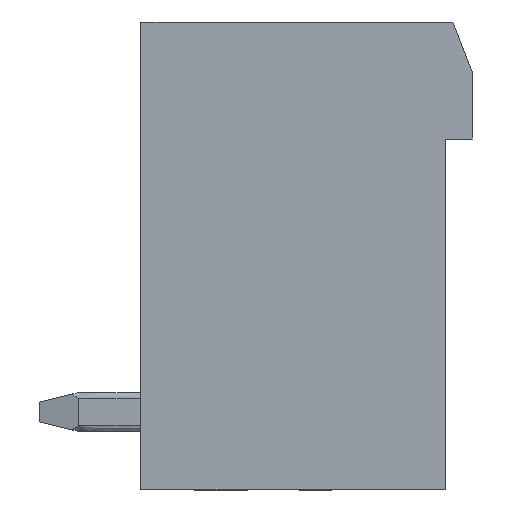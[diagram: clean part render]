
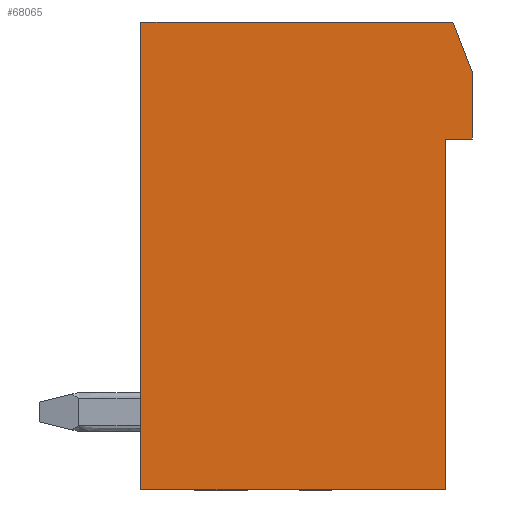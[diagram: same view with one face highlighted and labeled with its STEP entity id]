
A CAD part, left-side view. The second image highlights one B-rep face of the part: STEP entity #68065.
In plain terms, the highlighted free-form (B-spline) face has degree [1, 1] with [2, 2] control points.
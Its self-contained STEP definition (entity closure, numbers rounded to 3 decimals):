
#68065 = ADVANCED_FACE('',(#68066),#68079,.T.);
#68066 = FACE_BOUND('',#68067,.T.);
#68067 = EDGE_LOOP('',(#68068,#68089,#68103,#68117,#68131,#68168,#68182)
  );
#68068 = ORIENTED_EDGE('',*,*,#68069,.F.);
#68069 = EDGE_CURVE('',#68070,#68072,#68074,.T.);
#68070 = VERTEX_POINT('',#68071);
#68071 = CARTESIAN_POINT('',(-124.46,-3.9,-12.));
#68072 = VERTEX_POINT('',#68073);
#68073 = CARTESIAN_POINT('',(-124.46,3.9,-12.));
#68074 = SURFACE_CURVE('',#68075,(#68078),.PCURVE_S1.);
#68075 = B_SPLINE_CURVE_WITH_KNOTS('',1,(#68076,#68077),.UNSPECIFIED.,
  .F.,.F.,(2,2),(0.,1.),.PIECEWISE_BEZIER_KNOTS.);
#68076 = CARTESIAN_POINT('',(-124.46,-3.9,-12.));
#68077 = CARTESIAN_POINT('',(-124.46,3.9,-12.));
#68078 = PCURVE('',#68079,#68084);
#68079 = B_SPLINE_SURFACE_WITH_KNOTS('',1,1,(
    (#68080,#68081)
    ,(#68082,#68083
  )),.UNSPECIFIED.,.F.,.F.,.F.,(2,2),(2,2),(0.,1.),(0.,1.),
  .PIECEWISE_BEZIER_KNOTS.);
#68080 = CARTESIAN_POINT('',(-124.46,31.059,-41.259));
#68081 = CARTESIAN_POINT('',(-124.46,31.059,10.259));
#68082 = CARTESIAN_POINT('',(-124.46,-20.459,-41.259));
#68083 = CARTESIAN_POINT('',(-124.46,-20.459,10.259));
#68084 = DEFINITIONAL_REPRESENTATION('',(#68085),#68088);
#68085 = B_SPLINE_CURVE_WITH_KNOTS('',1,(#68086,#68087),.UNSPECIFIED.,
  .F.,.F.,(2,2),(0.,1.),.PIECEWISE_BEZIER_KNOTS.);
#68086 = CARTESIAN_POINT('',(0.679,0.568));
#68087 = CARTESIAN_POINT('',(0.527,0.568));
#68088 = ( GEOMETRIC_REPRESENTATION_CONTEXT(2) 
PARAMETRIC_REPRESENTATION_CONTEXT() REPRESENTATION_CONTEXT('2D SPACE',''
  ) );
#68089 = ORIENTED_EDGE('',*,*,#68090,.F.);
#68090 = EDGE_CURVE('',#68091,#68070,#68093,.T.);
#68091 = VERTEX_POINT('',#68092);
#68092 = CARTESIAN_POINT('',(-124.46,-3.9,-3.));
#68093 = SURFACE_CURVE('',#68094,(#68097),.PCURVE_S1.);
#68094 = B_SPLINE_CURVE_WITH_KNOTS('',1,(#68095,#68096),.UNSPECIFIED.,
  .F.,.F.,(2,2),(0.,1.),.PIECEWISE_BEZIER_KNOTS.);
#68095 = CARTESIAN_POINT('',(-124.46,-3.9,-3.));
#68096 = CARTESIAN_POINT('',(-124.46,-3.9,-12.));
#68097 = PCURVE('',#68079,#68098);
#68098 = DEFINITIONAL_REPRESENTATION('',(#68099),#68102);
#68099 = B_SPLINE_CURVE_WITH_KNOTS('',1,(#68100,#68101),.UNSPECIFIED.,
  .F.,.F.,(2,2),(0.,1.),.PIECEWISE_BEZIER_KNOTS.);
#68100 = CARTESIAN_POINT('',(0.679,0.743));
#68101 = CARTESIAN_POINT('',(0.679,0.568));
#68102 = ( GEOMETRIC_REPRESENTATION_CONTEXT(2) 
PARAMETRIC_REPRESENTATION_CONTEXT() REPRESENTATION_CONTEXT('2D SPACE',''
  ) );
#68103 = ORIENTED_EDGE('',*,*,#68104,.F.);
#68104 = EDGE_CURVE('',#68105,#68091,#68107,.T.);
#68105 = VERTEX_POINT('',#68106);
#68106 = CARTESIAN_POINT('',(-124.46,-4.6,-3.));
#68107 = SURFACE_CURVE('',#68108,(#68111),.PCURVE_S1.);
#68108 = B_SPLINE_CURVE_WITH_KNOTS('',1,(#68109,#68110),.UNSPECIFIED.,
  .F.,.F.,(2,2),(0.,1.),.PIECEWISE_BEZIER_KNOTS.);
#68109 = CARTESIAN_POINT('',(-124.46,-4.6,-3.));
#68110 = CARTESIAN_POINT('',(-124.46,-3.9,-3.));
#68111 = PCURVE('',#68079,#68112);
#68112 = DEFINITIONAL_REPRESENTATION('',(#68113),#68116);
#68113 = B_SPLINE_CURVE_WITH_KNOTS('',1,(#68114,#68115),.UNSPECIFIED.,
  .F.,.F.,(2,2),(0.,1.),.PIECEWISE_BEZIER_KNOTS.);
#68114 = CARTESIAN_POINT('',(0.692,0.743));
#68115 = CARTESIAN_POINT('',(0.679,0.743));
#68116 = ( GEOMETRIC_REPRESENTATION_CONTEXT(2) 
PARAMETRIC_REPRESENTATION_CONTEXT() REPRESENTATION_CONTEXT('2D SPACE',''
  ) );
#68117 = ORIENTED_EDGE('',*,*,#68118,.F.);
#68118 = EDGE_CURVE('',#68119,#68105,#68121,.T.);
#68119 = VERTEX_POINT('',#68120);
#68120 = CARTESIAN_POINT('',(-124.46,-4.6,-1.3));
#68121 = SURFACE_CURVE('',#68122,(#68125),.PCURVE_S1.);
#68122 = B_SPLINE_CURVE_WITH_KNOTS('',1,(#68123,#68124),.UNSPECIFIED.,
  .F.,.F.,(2,2),(0.,1.),.PIECEWISE_BEZIER_KNOTS.);
#68123 = CARTESIAN_POINT('',(-124.46,-4.6,-1.3));
#68124 = CARTESIAN_POINT('',(-124.46,-4.6,-3.));
#68125 = PCURVE('',#68079,#68126);
#68126 = DEFINITIONAL_REPRESENTATION('',(#68127),#68130);
#68127 = B_SPLINE_CURVE_WITH_KNOTS('',1,(#68128,#68129),.UNSPECIFIED.,
  .F.,.F.,(2,2),(0.,1.),.PIECEWISE_BEZIER_KNOTS.);
#68128 = CARTESIAN_POINT('',(0.692,0.776));
#68129 = CARTESIAN_POINT('',(0.692,0.743));
#68130 = ( GEOMETRIC_REPRESENTATION_CONTEXT(2) 
PARAMETRIC_REPRESENTATION_CONTEXT() REPRESENTATION_CONTEXT('2D SPACE',''
  ) );
#68131 = ORIENTED_EDGE('',*,*,#68132,.F.);
#68132 = EDGE_CURVE('',#68133,#68119,#68135,.T.);
#68133 = VERTEX_POINT('',#68134);
#68134 = CARTESIAN_POINT('',(-124.46,-4.1,0.));
#68135 = SURFACE_CURVE('',#68136,(#68139),.PCURVE_S1.);
#68136 = B_SPLINE_CURVE_WITH_KNOTS('',1,(#68137,#68138),.UNSPECIFIED.,
  .F.,.F.,(2,2),(0.,1.),.PIECEWISE_BEZIER_KNOTS.);
#68137 = CARTESIAN_POINT('',(-124.46,-4.1,0.));
#68138 = CARTESIAN_POINT('',(-124.46,-4.6,-1.3));
#68139 = PCURVE('',#68079,#68140);
#68140 = DEFINITIONAL_REPRESENTATION('',(#68141),#68167);
#68141 = B_SPLINE_CURVE_WITH_KNOTS('',3,(#68142,#68143,#68144,#68145,
    #68146,#68147,#68148,#68149,#68150,#68151,#68152,#68153,#68154,
    #68155,#68156,#68157,#68158,#68159,#68160,#68161,#68162,#68163,
    #68164,#68165,#68166),.UNSPECIFIED.,.F.,.F.,(4,1,1,1,1,1,1,1,1,1,1,1
    ,1,1,1,1,1,1,1,1,1,1,4),(0.,0.045,
    0.091,0.136,0.182,0.227,
    0.273,0.318,0.364,0.409,
    0.455,0.5,0.545,0.591,0.636,
    0.682,0.727,0.773,0.818,
    0.864,0.909,0.955,1.),
  .QUASI_UNIFORM_KNOTS.);
#68142 = CARTESIAN_POINT('',(0.682,0.801));
#68143 = CARTESIAN_POINT('',(0.683,0.8));
#68144 = CARTESIAN_POINT('',(0.683,0.8));
#68145 = CARTESIAN_POINT('',(0.683,0.799));
#68146 = CARTESIAN_POINT('',(0.684,0.797));
#68147 = CARTESIAN_POINT('',(0.684,0.796));
#68148 = CARTESIAN_POINT('',(0.685,0.795));
#68149 = CARTESIAN_POINT('',(0.685,0.794));
#68150 = CARTESIAN_POINT('',(0.686,0.793));
#68151 = CARTESIAN_POINT('',(0.686,0.792));
#68152 = CARTESIAN_POINT('',(0.686,0.791));
#68153 = CARTESIAN_POINT('',(0.687,0.789));
#68154 = CARTESIAN_POINT('',(0.687,0.788));
#68155 = CARTESIAN_POINT('',(0.688,0.787));
#68156 = CARTESIAN_POINT('',(0.688,0.786));
#68157 = CARTESIAN_POINT('',(0.689,0.785));
#68158 = CARTESIAN_POINT('',(0.689,0.784));
#68159 = CARTESIAN_POINT('',(0.69,0.783));
#68160 = CARTESIAN_POINT('',(0.69,0.781));
#68161 = CARTESIAN_POINT('',(0.69,0.78));
#68162 = CARTESIAN_POINT('',(0.691,0.779));
#68163 = CARTESIAN_POINT('',(0.691,0.778));
#68164 = CARTESIAN_POINT('',(0.692,0.777));
#68165 = CARTESIAN_POINT('',(0.692,0.776));
#68166 = CARTESIAN_POINT('',(0.692,0.776));
#68167 = ( GEOMETRIC_REPRESENTATION_CONTEXT(2) 
PARAMETRIC_REPRESENTATION_CONTEXT() REPRESENTATION_CONTEXT('2D SPACE',''
  ) );
#68168 = ORIENTED_EDGE('',*,*,#68169,.F.);
#68169 = EDGE_CURVE('',#68170,#68133,#68172,.T.);
#68170 = VERTEX_POINT('',#68171);
#68171 = CARTESIAN_POINT('',(-124.46,3.9,0.));
#68172 = SURFACE_CURVE('',#68173,(#68176),.PCURVE_S1.);
#68173 = B_SPLINE_CURVE_WITH_KNOTS('',1,(#68174,#68175),.UNSPECIFIED.,
  .F.,.F.,(2,2),(0.,1.),.PIECEWISE_BEZIER_KNOTS.);
#68174 = CARTESIAN_POINT('',(-124.46,3.9,0.));
#68175 = CARTESIAN_POINT('',(-124.46,-4.1,0.));
#68176 = PCURVE('',#68079,#68177);
#68177 = DEFINITIONAL_REPRESENTATION('',(#68178),#68181);
#68178 = B_SPLINE_CURVE_WITH_KNOTS('',1,(#68179,#68180),.UNSPECIFIED.,
  .F.,.F.,(2,2),(0.,1.),.PIECEWISE_BEZIER_KNOTS.);
#68179 = CARTESIAN_POINT('',(0.527,0.801));
#68180 = CARTESIAN_POINT('',(0.682,0.801));
#68181 = ( GEOMETRIC_REPRESENTATION_CONTEXT(2) 
PARAMETRIC_REPRESENTATION_CONTEXT() REPRESENTATION_CONTEXT('2D SPACE',''
  ) );
#68182 = ORIENTED_EDGE('',*,*,#68183,.F.);
#68183 = EDGE_CURVE('',#68072,#68170,#68184,.T.);
#68184 = SURFACE_CURVE('',#68185,(#68188),.PCURVE_S1.);
#68185 = B_SPLINE_CURVE_WITH_KNOTS('',1,(#68186,#68187),.UNSPECIFIED.,
  .F.,.F.,(2,2),(0.,1.),.PIECEWISE_BEZIER_KNOTS.);
#68186 = CARTESIAN_POINT('',(-124.46,3.9,-12.));
#68187 = CARTESIAN_POINT('',(-124.46,3.9,0.));
#68188 = PCURVE('',#68079,#68189);
#68189 = DEFINITIONAL_REPRESENTATION('',(#68190),#68193);
#68190 = B_SPLINE_CURVE_WITH_KNOTS('',1,(#68191,#68192),.UNSPECIFIED.,
  .F.,.F.,(2,2),(0.,1.),.PIECEWISE_BEZIER_KNOTS.);
#68191 = CARTESIAN_POINT('',(0.527,0.568));
#68192 = CARTESIAN_POINT('',(0.527,0.801));
#68193 = ( GEOMETRIC_REPRESENTATION_CONTEXT(2) 
PARAMETRIC_REPRESENTATION_CONTEXT() REPRESENTATION_CONTEXT('2D SPACE',''
  ) );
